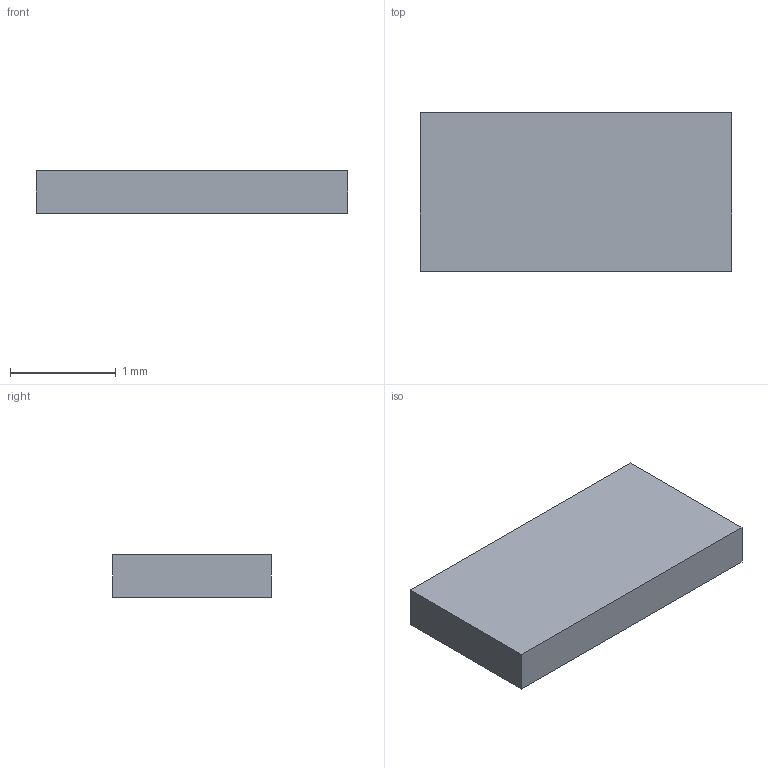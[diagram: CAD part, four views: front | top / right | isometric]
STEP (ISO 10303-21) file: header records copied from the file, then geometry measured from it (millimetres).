
FILE_DESCRIPTION(/* description */ ('','CAx-IF Rec.Pracs.---Representation and Presentation of Product Manufacturing Information (PMI)---4.0---2014-10-13'),/* implementation_level */ '2;1');
FILE_NAME(/* name */ 'velm3328_glass_casing.step',/* time_stamp */ '2025-02-19T18:35:40+01:00',/* author */ (''),/* organization */ (''),/* preprocessor_version */ 'ST-DEVELOPER v20',/* originating_system */ 'Autodesk Translation Framework v13.20.0.188',/* authorisation */ '');
FILE_SCHEMA (('AP242_MANAGED_MODEL_BASED_3D_ENGINEERING_MIM_LF { 1 0 10303 442 1 1 4 }'));
Length unit declared in the file: millimetre
Products named in the file (1): velm3328
Bounding box: 2.95 x 1.5 x 0.4 mm (x, y, z)
Volume: 1.8 mm3; surface area: 12.4 mm2
Topology: 1 solids, 1 shells, 6 faces, 12 edges, 8 vertices
Faces by surface type: plane 6
Entity records: 224 total; most frequent: CARTESIAN_POINT 27, DIRECTION 26, ORIENTED_EDGE 24, LINE 12, VECTOR 12, EDGE_CURVE 12, VERTEX_POINT 8, AXIS2_PLACEMENT_3D 7
